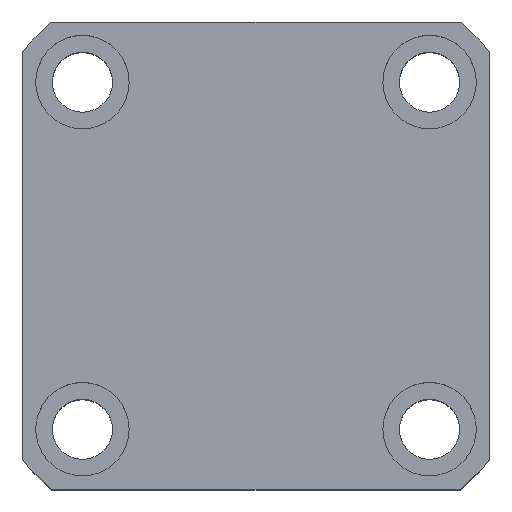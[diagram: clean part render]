
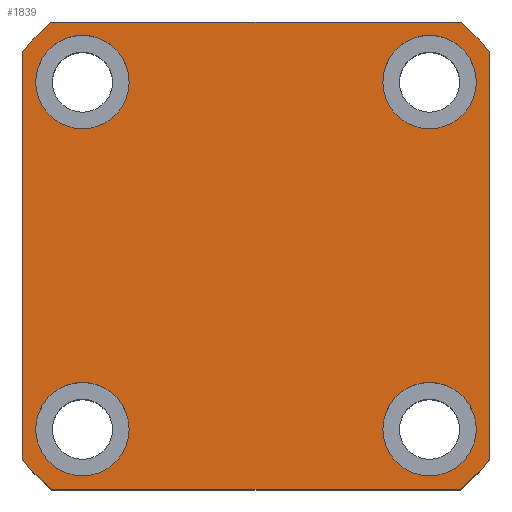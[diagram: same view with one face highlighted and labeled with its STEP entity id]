
A CAD part, top view. The second image highlights one B-rep face of the part: STEP entity #1839.
In plain terms, the highlighted planar face has unit normal (0, 0, 1).
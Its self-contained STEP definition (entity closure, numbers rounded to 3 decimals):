
#135 = CARTESIAN_POINT ( 'NONE',  ( -35., -30.615, 65. ) ) ;
#252 = CIRCLE ( 'NONE', #2648, 7. ) ;
#310 = CIRCLE ( 'NONE', #12001, 46.5 ) ;
#411 = ORIENTED_EDGE ( 'NONE', *, *, #10181, .F. ) ;
#684 = CARTESIAN_POINT ( 'NONE',  ( -35., 35., 65. ) ) ;
#745 = DIRECTION ( 'NONE',  ( 0., 0., 1. ) ) ;
#749 = ORIENTED_EDGE ( 'NONE', *, *, #5951, .F. ) ;
#793 = EDGE_CURVE ( 'NONE', #9391, #3912, #11731, .T. ) ;
#847 = CARTESIAN_POINT ( 'NONE',  ( 0., 0., 65. ) ) ;
#924 = DIRECTION ( 'NONE',  ( 1., 0., 0. ) ) ;
#990 = DIRECTION ( 'NONE',  ( 1., 0., 0. ) ) ;
#1056 = DIRECTION ( 'NONE',  ( 0., 0., 1. ) ) ;
#1329 = CARTESIAN_POINT ( 'NONE',  ( 19., 26., 65. ) ) ;
#1461 = ORIENTED_EDGE ( 'NONE', *, *, #10793, .T. ) ;
#1484 = CIRCLE ( 'NONE', #5978, 7. ) ;
#1546 = CARTESIAN_POINT ( 'NONE',  ( 35., 30.615, 65. ) ) ;
#1564 = AXIS2_PLACEMENT_3D ( 'NONE', #8536, #2179, #9590 ) ;
#1659 = EDGE_CURVE ( 'NONE', #3290, #12381, #5576, .T. ) ;
#1730 = DIRECTION ( 'NONE',  ( 0., -1., 0. ) ) ;
#1839 = ADVANCED_FACE ( 'NONE', ( #4571, #7416, #9882, #4241, #5174 ), #11995, .T. ) ;
#1897 = DIRECTION ( 'NONE',  ( 1., 0., 0. ) ) ;
#2140 = ORIENTED_EDGE ( 'NONE', *, *, #793, .T. ) ;
#2177 = AXIS2_PLACEMENT_3D ( 'NONE', #7804, #9909, #3542 ) ;
#2179 = DIRECTION ( 'NONE',  ( 0., 0., 1. ) ) ;
#2187 = CIRCLE ( 'NONE', #4436, 7. ) ;
#2210 = CARTESIAN_POINT ( 'NONE',  ( -19., -26., 65. ) ) ;
#2299 = EDGE_CURVE ( 'NONE', #6538, #3285, #6356, .T. ) ;
#2454 = ORIENTED_EDGE ( 'NONE', *, *, #8523, .T. ) ;
#2623 = CARTESIAN_POINT ( 'NONE',  ( -26., 26., 65. ) ) ;
#2648 = AXIS2_PLACEMENT_3D ( 'NONE', #7116, #745, #8171 ) ;
#2798 = EDGE_CURVE ( 'NONE', #12882, #4191, #2187, .T. ) ;
#2931 = ORIENTED_EDGE ( 'NONE', *, *, #1659, .F. ) ;
#3134 = CARTESIAN_POINT ( 'NONE',  ( -35., -35., 65. ) ) ;
#3135 = ORIENTED_EDGE ( 'NONE', *, *, #7726, .T. ) ;
#3141 = CIRCLE ( 'NONE', #12691, 46.5 ) ;
#3201 = DIRECTION ( 'NONE',  ( 0., 0., 1. ) ) ;
#3256 = DIRECTION ( 'NONE',  ( 0., 0., 1. ) ) ;
#3285 = VERTEX_POINT ( 'NONE', #13077 ) ;
#3290 = VERTEX_POINT ( 'NONE', #6742 ) ;
#3323 = AXIS2_PLACEMENT_3D ( 'NONE', #5138, #12550, #6221 ) ;
#3387 = DIRECTION ( 'NONE',  ( -1., 0., 0. ) ) ;
#3451 = EDGE_LOOP ( 'NONE', ( #10703, #12846 ) ) ;
#3474 = CARTESIAN_POINT ( 'NONE',  ( 0., 0., 65. ) ) ;
#3542 = DIRECTION ( 'NONE',  ( 1., 0., 0. ) ) ;
#3559 = EDGE_LOOP ( 'NONE', ( #7926, #12889 ) ) ;
#3677 = DIRECTION ( 'NONE',  ( 1., 0., 0. ) ) ;
#3830 = AXIS2_PLACEMENT_3D ( 'NONE', #13647, #7342, #990 ) ;
#3912 = VERTEX_POINT ( 'NONE', #10849 ) ;
#4112 = EDGE_CURVE ( 'NONE', #12567, #6538, #11123, .T. ) ;
#4191 = VERTEX_POINT ( 'NONE', #10646 ) ;
#4241 = FACE_BOUND ( 'NONE', #3451, .T. ) ;
#4267 = VERTEX_POINT ( 'NONE', #4602 ) ;
#4436 = AXIS2_PLACEMENT_3D ( 'NONE', #9610, #3256, #10682 ) ;
#4517 = VERTEX_POINT ( 'NONE', #7068 ) ;
#4540 = DIRECTION ( 'NONE',  ( 1., 0., 0. ) ) ;
#4571 = FACE_BOUND ( 'NONE', #11535, .T. ) ;
#4602 = CARTESIAN_POINT ( 'NONE',  ( -19., 26., 65. ) ) ;
#4664 = EDGE_CURVE ( 'NONE', #4517, #12567, #3141, .T. ) ;
#4742 = CIRCLE ( 'NONE', #1564, 7. ) ;
#4811 = DIRECTION ( 'NONE',  ( 0., 0., 1. ) ) ;
#5086 = VERTEX_POINT ( 'NONE', #12321 ) ;
#5138 = CARTESIAN_POINT ( 'NONE',  ( 0., 0., 65. ) ) ;
#5174 = FACE_OUTER_BOUND ( 'NONE', #8559, .T. ) ;
#5576 = CIRCLE ( 'NONE', #3830, 7. ) ;
#5592 = EDGE_CURVE ( 'NONE', #13008, #4267, #5996, .T. ) ;
#5951 = EDGE_CURVE ( 'NONE', #7708, #11040, #1484, .T. ) ;
#5978 = AXIS2_PLACEMENT_3D ( 'NONE', #11166, #4811, #12226 ) ;
#5996 = CIRCLE ( 'NONE', #9768, 7. ) ;
#6138 = VECTOR ( 'NONE', #3387, 1000. ) ;
#6221 = DIRECTION ( 'NONE',  ( 1., 0., 0. ) ) ;
#6356 = CIRCLE ( 'NONE', #3323, 46.5 ) ;
#6446 = ORIENTED_EDGE ( 'NONE', *, *, #11868, .F. ) ;
#6538 = VERTEX_POINT ( 'NONE', #1546 ) ;
#6570 = CARTESIAN_POINT ( 'NONE',  ( -35., 35., 65. ) ) ;
#6644 = ORIENTED_EDGE ( 'NONE', *, *, #7080, .T. ) ;
#6652 = CARTESIAN_POINT ( 'NONE',  ( 33., 26., 65. ) ) ;
#6742 = CARTESIAN_POINT ( 'NONE',  ( -33., -26., 65. ) ) ;
#6975 = ORIENTED_EDGE ( 'NONE', *, *, #2299, .T. ) ;
#7068 = CARTESIAN_POINT ( 'NONE',  ( 30.615, -35., 65. ) ) ;
#7080 = EDGE_CURVE ( 'NONE', #3285, #5086, #11773, .T. ) ;
#7116 = CARTESIAN_POINT ( 'NONE',  ( -26., -26., 65. ) ) ;
#7284 = DIRECTION ( 'NONE',  ( 0., 0., 1. ) ) ;
#7342 = DIRECTION ( 'NONE',  ( 0., 0., 1. ) ) ;
#7412 = CARTESIAN_POINT ( 'NONE',  ( 26., -26., 65. ) ) ;
#7416 = FACE_BOUND ( 'NONE', #3559, .T. ) ;
#7641 = ORIENTED_EDGE ( 'NONE', *, *, #4112, .T. ) ;
#7674 = CARTESIAN_POINT ( 'NONE',  ( 35., -30.615, 65. ) ) ;
#7708 = VERTEX_POINT ( 'NONE', #6652 ) ;
#7726 = EDGE_CURVE ( 'NONE', #5086, #9686, #310, .T. ) ;
#7804 = CARTESIAN_POINT ( 'NONE',  ( 0., 0., 65. ) ) ;
#7926 = ORIENTED_EDGE ( 'NONE', *, *, #2798, .F. ) ;
#8130 = CARTESIAN_POINT ( 'NONE',  ( 33., -26., 65. ) ) ;
#8171 = DIRECTION ( 'NONE',  ( 1., 0., 0. ) ) ;
#8266 = DIRECTION ( 'NONE',  ( 0., 0., 1. ) ) ;
#8480 = DIRECTION ( 'NONE',  ( 1., 0., 0. ) ) ;
#8515 = CARTESIAN_POINT ( 'NONE',  ( 35., 35., 65. ) ) ;
#8523 = EDGE_CURVE ( 'NONE', #9686, #9391, #13374, .T. ) ;
#8536 = CARTESIAN_POINT ( 'NONE',  ( 26., 26., 65. ) ) ;
#8559 = EDGE_LOOP ( 'NONE', ( #7641, #6975, #6644, #3135, #2454, #2140, #1461, #9254 ) ) ;
#8680 = EDGE_LOOP ( 'NONE', ( #749, #411 ) ) ;
#8734 = CIRCLE ( 'NONE', #9833, 7. ) ;
#8870 = EDGE_CURVE ( 'NONE', #4191, #12882, #9580, .T. ) ;
#9254 = ORIENTED_EDGE ( 'NONE', *, *, #4664, .T. ) ;
#9391 = VERTEX_POINT ( 'NONE', #135 ) ;
#9556 = CARTESIAN_POINT ( 'NONE',  ( 0., 0., 65. ) ) ;
#9571 = DIRECTION ( 'NONE',  ( 0., 1., 0. ) ) ;
#9580 = CIRCLE ( 'NONE', #11932, 7. ) ;
#9590 = DIRECTION ( 'NONE',  ( 1., 0., 0. ) ) ;
#9610 = CARTESIAN_POINT ( 'NONE',  ( 26., -26., 65. ) ) ;
#9686 = VERTEX_POINT ( 'NONE', #12942 ) ;
#9768 = AXIS2_PLACEMENT_3D ( 'NONE', #2623, #10040, #3677 ) ;
#9833 = AXIS2_PLACEMENT_3D ( 'NONE', #13591, #7284, #924 ) ;
#9882 = FACE_BOUND ( 'NONE', #8680, .T. ) ;
#9909 = DIRECTION ( 'NONE',  ( 0., 0., 1. ) ) ;
#10040 = DIRECTION ( 'NONE',  ( 0., 0., 1. ) ) ;
#10181 = EDGE_CURVE ( 'NONE', #11040, #7708, #4742, .T. ) ;
#10205 = VECTOR ( 'NONE', #11637, 1000. ) ;
#10541 = LINE ( 'NONE', #3134, #10205 ) ;
#10633 = DIRECTION ( 'NONE',  ( 1., 0., 0. ) ) ;
#10646 = CARTESIAN_POINT ( 'NONE',  ( 19., -26., 65. ) ) ;
#10651 = EDGE_CURVE ( 'NONE', #4267, #13008, #8734, .T. ) ;
#10682 = DIRECTION ( 'NONE',  ( 1., 0., 0. ) ) ;
#10703 = ORIENTED_EDGE ( 'NONE', *, *, #10651, .F. ) ;
#10791 = VECTOR ( 'NONE', #9571, 1000. ) ;
#10793 = EDGE_CURVE ( 'NONE', #3912, #4517, #10541, .T. ) ;
#10849 = CARTESIAN_POINT ( 'NONE',  ( -30.615, -35., 65. ) ) ;
#10902 = DIRECTION ( 'NONE',  ( 0., 0., 1. ) ) ;
#11040 = VERTEX_POINT ( 'NONE', #1329 ) ;
#11123 = LINE ( 'NONE', #8515, #10791 ) ;
#11166 = CARTESIAN_POINT ( 'NONE',  ( 26., 26., 65. ) ) ;
#11535 = EDGE_LOOP ( 'NONE', ( #6446, #2931 ) ) ;
#11637 = DIRECTION ( 'NONE',  ( 1., 0., 0. ) ) ;
#11731 = CIRCLE ( 'NONE', #12000, 46.5 ) ;
#11773 = LINE ( 'NONE', #6570, #6138 ) ;
#11868 = EDGE_CURVE ( 'NONE', #12381, #3290, #252, .T. ) ;
#11932 = AXIS2_PLACEMENT_3D ( 'NONE', #7412, #1056, #8480 ) ;
#11995 = PLANE ( 'NONE',  #2177 ) ;
#12000 = AXIS2_PLACEMENT_3D ( 'NONE', #9556, #3201, #10633 ) ;
#12001 = AXIS2_PLACEMENT_3D ( 'NONE', #3474, #10902, #4540 ) ;
#12226 = DIRECTION ( 'NONE',  ( 1., 0., 0. ) ) ;
#12321 = CARTESIAN_POINT ( 'NONE',  ( -30.615, 35., 65. ) ) ;
#12381 = VERTEX_POINT ( 'NONE', #2210 ) ;
#12550 = DIRECTION ( 'NONE',  ( 0., 0., 1. ) ) ;
#12567 = VERTEX_POINT ( 'NONE', #7674 ) ;
#12691 = AXIS2_PLACEMENT_3D ( 'NONE', #847, #8266, #1897 ) ;
#12846 = ORIENTED_EDGE ( 'NONE', *, *, #5592, .F. ) ;
#12882 = VERTEX_POINT ( 'NONE', #8130 ) ;
#12889 = ORIENTED_EDGE ( 'NONE', *, *, #8870, .F. ) ;
#12942 = CARTESIAN_POINT ( 'NONE',  ( -35., 30.615, 65. ) ) ;
#13008 = VERTEX_POINT ( 'NONE', #13462 ) ;
#13050 = VECTOR ( 'NONE', #1730, 1000. ) ;
#13077 = CARTESIAN_POINT ( 'NONE',  ( 30.615, 35., 65. ) ) ;
#13374 = LINE ( 'NONE', #684, #13050 ) ;
#13462 = CARTESIAN_POINT ( 'NONE',  ( -33., 26., 65. ) ) ;
#13591 = CARTESIAN_POINT ( 'NONE',  ( -26., 26., 65. ) ) ;
#13647 = CARTESIAN_POINT ( 'NONE',  ( -26., -26., 65. ) ) ;
